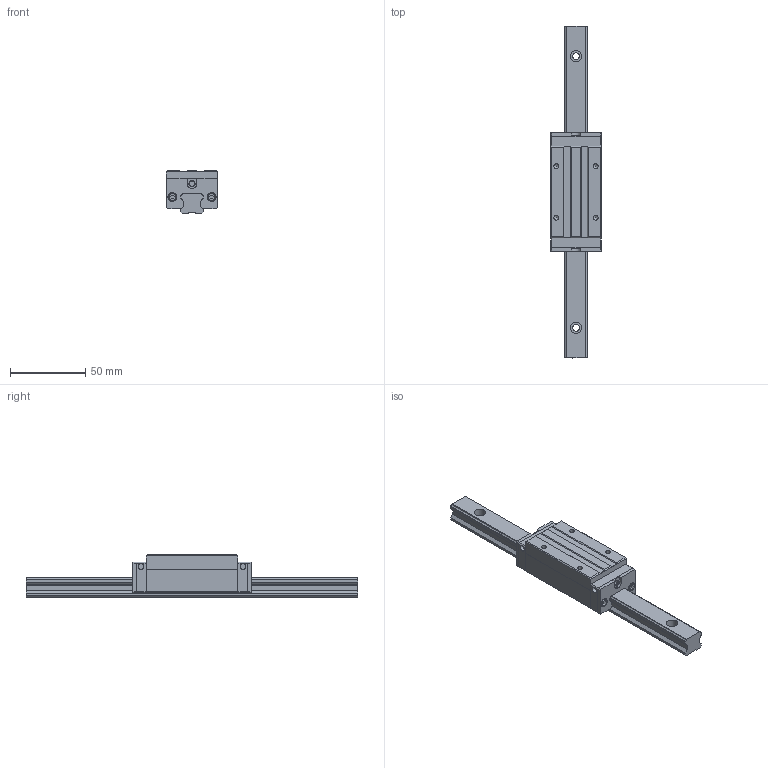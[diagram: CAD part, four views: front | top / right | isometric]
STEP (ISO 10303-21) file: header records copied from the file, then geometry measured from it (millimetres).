
FILE_DESCRIPTION( ( 'Unknown' ), '1' );
FILE_NAME( 'C:/Documents and Settings/c/官帕 拳搁/15/SBI 15 SLL.stp', 'Unknown', ( 'Unknown' ), ( 'Unknown' ), 'XStep 1.0', 'Unknown', ' ' );
FILE_SCHEMA( ( 'automotive_design' ) );
Length unit declared in the file: millimetre
Products named in the file (7): Assem1; SBI-15SLL BLOCK; RAIL
Bounding box: 34 x 220 x 28 mm (x, y, z)
Volume: 165040.9 mm3; surface area: 62240.1 mm2
Topology: 12 solids, 12 shells, 664 faces, 1768 edges, 1180 vertices
Faces by surface type: plane 524, cylinder 92, extrusion 32, cone 8, torus 8
Full cylindrical faces by diameter (mm): 3.242 x8, 3.4 x8, 3.5 x4, 3.818 x8, 4.1 x4, 4.5 x8, 5.5 x8, 6 x8, 7.5 x8
Entity records: 10802 total; most frequent: CARTESIAN_POINT 2341, ORIENTED_EDGE 1652, DIRECTION 1564, EDGE_CURVE 826, VECTOR 702, LINE 686, VERTEX_POINT 576, AXIS2_PLACEMENT_3D 431
